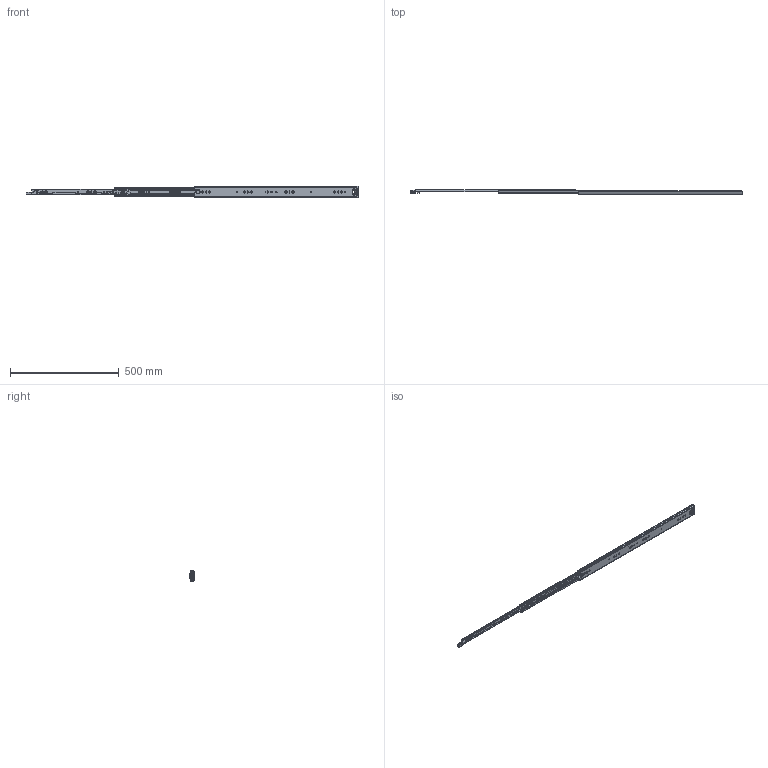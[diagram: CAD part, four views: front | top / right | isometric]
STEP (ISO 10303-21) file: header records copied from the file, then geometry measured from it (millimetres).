
FILE_DESCRIPTION((''),'2;1');
FILE_NAME('1053-3S-30ZUZHUANGTU_ASM','2023-04-12T',('jishu015'),(''),'PRO/ENGINEER BY PARAMETRIC TECHNOLOGY CORPORATION, 2010280','PRO/ENGINEER BY PARAMETRIC TECHNOLOGY CORPORATION, 2010280','');
FILE_SCHEMA(('CONFIG_CONTROL_DESIGN'));
Products named in the file (20): 1053-02-18WAIKE_________; 1053WEIJIAO_________; 1053-3S-24WAIKE__________ASM; 1053ZHUTIAO-175_________; 53-5-6GANZHU_________; 1053ZHUTIAO-175MM__________ASM; 1053-02-18ZHONGGUI_________; ZHONGGUIPEIJIAN_______; ZHONGGUISUOKOU_______; 1053-02-18ZHONGGUI__________ASM; 1053XIAOZHUJIA-14GE_________; 1053XIAOZHUJIA-14GE__________ASM; 1053-02-18NEIGUI_________; DAOPIAN_____; PIAN_____; 1053-3SBANJI123____; JIAO-11____; 50XINSUOKOU11___; 1053-02-18NEIGUI__________ASM; 1053-3S-30ZUZHUANGTU_ASM
Assembly tree (84 placements, depth 3):
  1053-3S-30ZUZHUANGTU_ASM
    1053-3S-24WAIKE__________ASM
      1053-02-18WAIKE_________
      1053WEIJIAO_________
    1053ZHUTIAO-175MM__________ASM  x2
      1053ZHUTIAO-175_________
      53-5-6GANZHU_________
    1053-02-18ZHONGGUI__________ASM
      1053-02-18ZHONGGUI_________
      ZHONGGUIPEIJIAN_______
      ZHONGGUISUOKOU_______
    1053XIAOZHUJIA-14GE__________ASM
      1053XIAOZHUJIA-14GE_________
      53-5-6GANZHU_________  x52
    1053-02-18NEIGUI__________ASM
      1053-02-18NEIGUI_________
      DAOPIAN_____
      PIAN_____
      1053-3SBANJI123____
      JIAO-11____
      50XINSUOKOU11___
Bounding box: 1526.92 x 18.7 x 53 mm (x, y, z)
Volume: 284885.4 mm3; surface area: 329921.6 mm2
Topology: 93 solids, 93 shells, 2424 faces, 7007 edges, 4381 vertices
Faces by surface type: cylinder 1050, plane 984, sphere 164, bspline 109, cone 78, extrusion 23, torus 16
Entity records: 78765 total; most frequent: CARTESIAN_POINT 19738, ORIENTED_EDGE 12548, DIRECTION 12098, EDGE_CURVE 6274, AXIS2_PLACEMENT_3D 4183, VERTEX_POINT 4055, VECTOR 3732, LINE 3709
